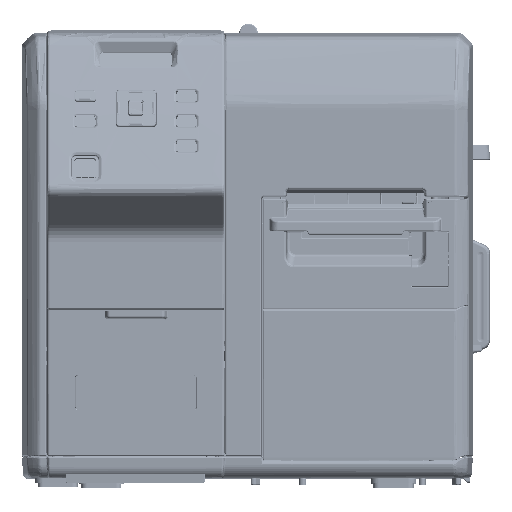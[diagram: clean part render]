
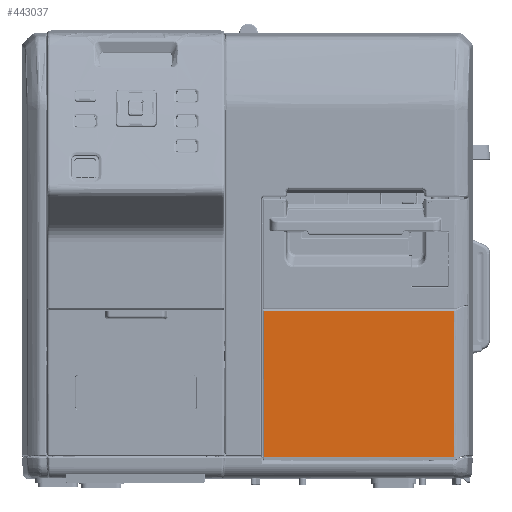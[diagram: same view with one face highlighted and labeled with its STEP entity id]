
A CAD part, top view. The second image highlights one B-rep face of the part: STEP entity #443037.
In plain terms, the highlighted planar face has unit normal (0, 0, 1).
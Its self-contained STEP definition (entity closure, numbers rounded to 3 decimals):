
#438552=DIRECTION('',(-1.,0.,0.));
#438553=VECTOR('',#438552,165.109);
#438554=CARTESIAN_POINT('',(141.553,-98.707,
185.));
#438555=LINE('',#438554,#438553);
#438556=CARTESIAN_POINT('',(141.553,-98.707,
185.));
#438557=CARTESIAN_POINT('',(141.56,-111.886,
185.));
#438558=CARTESIAN_POINT('',(141.575,-138.848,
185.));
#438559=CARTESIAN_POINT('',(141.597,-180.071,
185.));
#438560=CARTESIAN_POINT('',(141.613,-210.141,
185.));
#438561=CARTESIAN_POINT('',(141.622,-225.651,
185.));
#438563=DIRECTION('',(-1.,0.,0.));
#438564=VECTOR('',#438563,165.178);
#438565=CARTESIAN_POINT('',(141.622,-225.651,
185.));
#438566=LINE('',#438565,#438564);
#438567=DIRECTION('',(0.,1.,0.));
#438568=VECTOR('',#438567,126.944);
#438569=CARTESIAN_POINT('',(-23.555,-225.651,
185.));
#438570=LINE('',#438569,#438568);
#438581=CARTESIAN_POINT('',(-23.555,-98.707,
185.));
#438638=CARTESIAN_POINT('',(-23.555,-225.651,
185.));
#438640=CARTESIAN_POINT('',(141.622,-225.651,
185.));
#442250=VERTEX_POINT('',#438640);
#442626=VERTEX_POINT('',#438638);
#442655=VERTEX_POINT('',#438581);
#442659=CARTESIAN_POINT('',(141.553,-98.707,
185.));
#442660=VERTEX_POINT('',#442659);
#443022=CARTESIAN_POINT('',(-234.,143.,185.));
#443023=DIRECTION('',(0.,0.,1.));
#443024=DIRECTION('',(0.,-1.,0.));
#443025=AXIS2_PLACEMENT_3D('',#443022,#443023,#443024);
#443026=PLANE('',#443025);
#443028=ORIENTED_EDGE('',*,*,#443027,.F.);
#443030=ORIENTED_EDGE('',*,*,#443029,.T.);
#443032=ORIENTED_EDGE('',*,*,#443031,.T.);
#443034=ORIENTED_EDGE('',*,*,#443033,.T.);
#443035=EDGE_LOOP('',(#443028,#443030,#443032,#443034));
#443036=FACE_OUTER_BOUND('',#443035,.F.);
#438562=B_SPLINE_CURVE_WITH_KNOTS('',3,(#438556,#438557,#438558,#438559,#438560,
#438561),.UNSPECIFIED.,.F.,.F.,(4,1,1,4),(0.,0.333,
0.667,1.),.UNSPECIFIED.);
#443027=EDGE_CURVE('',#442660,#442655,#438555,.T.);
#443029=EDGE_CURVE('',#442660,#442250,#438562,.T.);
#443031=EDGE_CURVE('',#442250,#442626,#438566,.T.);
#443033=EDGE_CURVE('',#442626,#442655,#438570,.T.);
#443037=ADVANCED_FACE('',(#443036),#443026,.T.);
